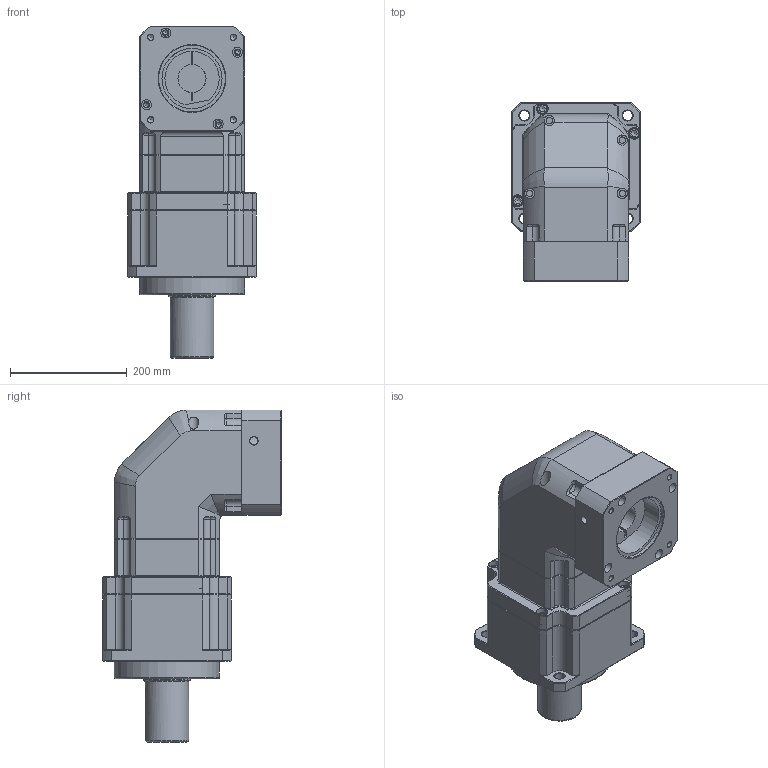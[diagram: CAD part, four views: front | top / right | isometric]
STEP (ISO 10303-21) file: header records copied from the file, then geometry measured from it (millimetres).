
FILE_DESCRIPTION((''),'2;1');
FILE_NAME('C:\Users\nagyu\Desktop\유성감속기-진행자료\도면\3D\2. 홈페이지용 3D 도면 (ipt)\외부도\SPL220\SPLH220D (2STAGE-KEY TYPE).stp','2012-07-23T11:42:59',('nagyu'),(''),'Autodesk Inventor 2012','Autodesk Inventor 2012','');
FILE_SCHEMA(('AUTOMOTIVE_DESIGN { 1 0 10303 214 1 1 1 1 }'));
Length unit declared in the file: millimetre
Products named in the file (2): SPL220 2단.iam (대체 세부 수준1); SPL220 2단_대체_1
Assembly tree (1 placements, depth 2):
  SPL220 2단.iam (대체 세부 수준1)
    SPL220 2단_대체_1
Bounding box: 220 x 306 x 569 mm (x, y, z)
Volume: 16929026.5 mm3; surface area: 810680 mm2
Topology: 8 solids, 8 shells, 536 faces, 1287 edges, 784 vertices
Faces by surface type: plane 235, cylinder 161, cone 104, torus 32, bspline 4
Full cylindrical faces by diameter (mm): 8.376 x4, 10.106 x4, 11 x8, 12 x4, 13 x4, 13.835 x1, 17 x8, 17.294 x1, 17.5 x4, 18 x4, 20 x4, 22 x1, 48 x1, 64.8 x1, 75 x1, 79.7 x1, 103 x1, 114.3 x1, 145 x2, 165 x1, 171.6 x1, 180 x1, 200 x1
Entity records: 15708 total; most frequent: CARTESIAN_POINT 3648, DIRECTION 2454, ORIENTED_EDGE 2282, EDGE_CURVE 1141, AXIS2_PLACEMENT_3D 977, VERTEX_POINT 748, EDGE_LOOP 701, FACE_OUTER_BOUND 536
